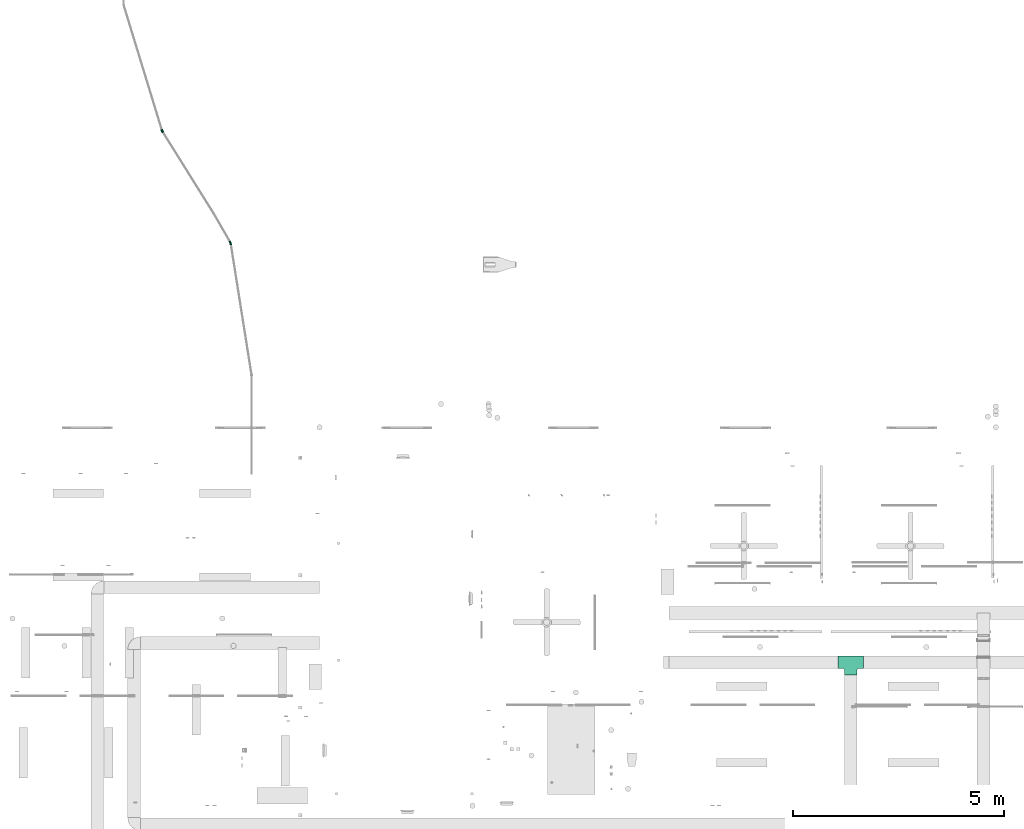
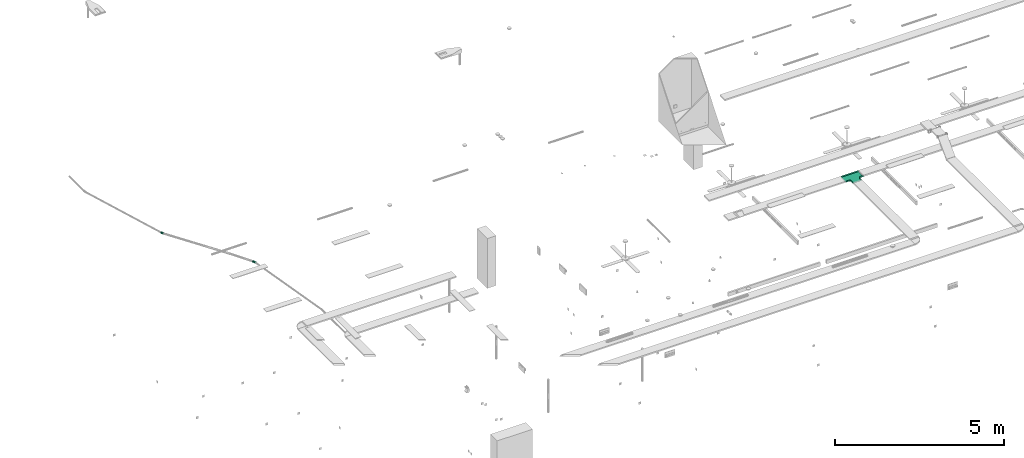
# One storey, part 148 of 153: 3 flow fittings.
"""IFC2X3 building model written with IfcOpenShell, lengths in metres."""

import ifcopenshell
import ifcopenshell.guid

model = None  # the IFC model being written
_history = None  # IfcOwnerHistory: only IFC2X3 demands one
_inside = {}  # id of a spatial element -> (the spatial element, [elements in it])
_under = {}  # id of a project, library or spatial element -> (it, [spatial elements below it])
_declared = {}  # id of a project -> (the project, [libraries it declares])
_typed = {}  # id of a type object -> (the type object, [elements of that type])
_made_of = {}  # id of a material, layer set ... -> (it, [elements and type objects made of it])


def new_model(schema):
    """Start an empty IFC model of exactly this schema.

    Asked for "IFC4X3", IfcOpenShell would pick the latest addendum, in which some entities
    have other attributes; the version numbers below select the first issue.
    IFC2X3 requires an IfcOwnerHistory on every rooted entity: one is made here for all.
    """
    global model, _history
    if schema == "IFC4X3":
        model = ifcopenshell.file(schema_version=(4, 3, 0, 0))
    else:
        model = ifcopenshell.file(schema=schema)
    _inside.clear()
    _under.clear()
    _declared.clear()
    _typed.clear()
    _made_of.clear()
    _history = None
    if model.schema == "IFC2X3":
        org = make("IfcOrganization", Name="unknown")
        user = make(
            "IfcPersonAndOrganization",
            ThePerson=make("IfcPerson", FamilyName="unknown"),
            TheOrganization=org,
        )
        app = make(
            "IfcApplication",
            ApplicationDeveloper=org,
            Version="unknown",
            ApplicationFullName="unknown",
            ApplicationIdentifier="unknown",
        )
        _history = make(
            "IfcOwnerHistory",
            OwningUser=user,
            OwningApplication=app,
            ChangeAction="ADDED",
            CreationDate=0,
        )
    return model


def make(cls, **values):
    """One entity of the class cls with the attributes given. An attribute that is None is left unset."""
    return model.create_entity(
        cls, **{name: value for name, value in values.items() if value is not None}
    )


def entity(cls, *values):
    """Any entity or typed value of the class cls, its attributes in the order of the schema. None: left unset."""
    e = model.create_entity(cls)
    for i, value in enumerate(values):
        if value is not None:
            e[i] = value
    return e


def rooted(cls, **values):
    """An entity with a GlobalId (a new one), such as an element, a storey or a relation."""
    return make(cls, GlobalId=ifcopenshell.guid.new(), OwnerHistory=_history, **values)


def si_unit(unit_type, name, prefix=None):
    """IfcSIUnit, for example si_unit("LENGTHUNIT", "METRE", prefix="MILLI")."""
    return make("IfcSIUnit", UnitType=unit_type, Prefix=prefix, Name=name)


def converted_unit(unit_type, name, factor, base, dimensions=None, offset=None):
    """IfcConversionBasedUnit, such as the inch: factor (a typed value) times the base unit."""
    return make(
        "IfcConversionBasedUnit"
        if offset is None
        else "IfcConversionBasedUnitWithOffset",
        ConversionOffset=offset,
        Dimensions=None
        if dimensions is None
        else entity("IfcDimensionalExponents", *dimensions),
        UnitType=unit_type,
        Name=name,
        ConversionFactor=make(
            "IfcMeasureWithUnit", ValueComponent=factor, UnitComponent=base
        ),
    )


def derived_unit(unit_type, elements):
    """IfcDerivedUnit: a product of units, each with its exponent."""
    return make(
        "IfcDerivedUnit",
        Elements=[
            make("IfcDerivedUnitElement", Unit=unit, Exponent=power)
            for unit, power in elements
        ],
        UnitType=unit_type,
    )


def assignment(units):
    """IfcUnitAssignment: the units of a project."""
    return None if units is None else make("IfcUnitAssignment", Units=units)


def point(xyz):
    """IfcCartesianPoint."""
    return None if xyz is None else make("IfcCartesianPoint", Coordinates=xyz)


def direction(xyz):
    """IfcDirection."""
    return None if xyz is None else make("IfcDirection", DirectionRatios=xyz)


def frame(location, z_axis=None, x_axis=None):
    """IfcAxis2Placement3D, a coordinate frame: its origin and axes. An axis left out is left unset."""
    return make(
        "IfcAxis2Placement3D",
        Location=point(location),
        Axis=direction(z_axis),
        RefDirection=direction(x_axis),
    )


def origin():
    """The frame at (0, 0, 0) with its axes left unset."""
    return frame((0.0, 0.0, 0.0))


def place(relative_to, where):
    """IfcLocalPlacement: puts the frame where relative to a parent placement (None: the world)."""
    return make(
        "IfcLocalPlacement", PlacementRelTo=relative_to, RelativePlacement=where
    )


def context(
    kind, dimensions, precision=None, world=None, true_north=None, identifier=None
):
    """IfcGeometricRepresentationContext, for example the 3D "Model" context."""
    return make(
        "IfcGeometricRepresentationContext",
        ContextIdentifier=identifier,
        ContextType=kind,
        CoordinateSpaceDimension=dimensions,
        Precision=precision,
        WorldCoordinateSystem=world,
        TrueNorth=true_north,
    )


def subcontext(parent, identifier, kind, view, scale=None):
    """IfcGeometricRepresentationSubContext, for example "Body" below "Model"."""
    return make(
        "IfcGeometricRepresentationSubContext",
        ContextIdentifier=identifier,
        ContextType=kind,
        ParentContext=parent,
        TargetScale=scale,
        TargetView=view,
    )


def project(units=None, contexts=None):
    """IfcProject with its units and contexts."""
    return rooted(
        "IfcProject",
        Name="project",
        RepresentationContexts=contexts,
        UnitsInContext=assignment(units),
    )


def spatial(cls, under=None, at=None, **own):
    """A site, building, storey or space (cls), placed at a placement, below another one or the project."""
    s = rooted(cls, ObjectPlacement=at, **own)
    if under is not None:
        _under.setdefault(under.id(), (under, []))[1].append(s)
    return s


def faces_of(points, faces, orient=None, outer=None):
    """IfcFace entities. A face is a list of loops; a loop is a list of indices into points, from 0.

    orient and outer hold one flag for each loop. By default every Orientation is true, the
    first loop of a face is its IfcFaceOuterBound and the others are IfcFaceBound.
    """
    made = []
    for i, loops in enumerate(faces):
        bounds = []
        for j, loop in enumerate(loops):
            is_outer = j == 0 if outer is None else outer[i][j]
            bounds.append(
                make(
                    "IfcFaceOuterBound" if is_outer else "IfcFaceBound",
                    Bound=make("IfcPolyLoop", Polygon=[points[k] for k in loop]),
                    Orientation=True if orient is None else orient[i][j],
                )
            )
        made.append(make("IfcFace", Bounds=bounds))
    return made


def faceted_brep(points, faces, orient=None, outer=None, voids=None):
    """IfcFacetedBrep: a solid bounded by flat faces; with voids (closed shells), ...WithVoids."""
    shared = [point(p) for p in points]
    hull = make("IfcClosedShell", CfsFaces=faces_of(shared, faces, orient, outer))
    if voids is None:
        return make("IfcFacetedBrep", Outer=hull)
    return make(
        "IfcFacetedBrepWithVoids",
        Outer=hull,
        Voids=[
            make(cls, CfsFaces=faces_of(shared, fs, o, b)) for cls, fs, o, b in voids
        ],
    )


def shape(context_of_items, identifier, shape_type, items):
    """IfcShapeRepresentation: the items that make up one representation, for example the "Body"."""
    return make(
        "IfcShapeRepresentation",
        ContextOfItems=context_of_items,
        RepresentationIdentifier=identifier,
        RepresentationType=shape_type,
        Items=items,
    )


def source(mapping_origin, context_of_items, identifier, shape_type, items):
    """IfcRepresentationMap: a shape defined once, which mapped items show again and again."""
    return make(
        "IfcRepresentationMap",
        MappingOrigin=mapping_origin,
        MappedRepresentation=shape(context_of_items, identifier, shape_type, items),
    )


def transform(
    local_origin,
    x_axis=None,
    y_axis=None,
    z_axis=None,
    scale=None,
    scale2=None,
    scale3=None,
    uniform=True,
):
    """IfcCartesianTransformationOperator3D, or its non-uniform kind. x_axis, y_axis, z_axis: its Axis1, 2, 3."""
    if uniform:
        return make(
            "IfcCartesianTransformationOperator3D",
            Axis1=direction(x_axis),
            Axis2=direction(y_axis),
            LocalOrigin=point(local_origin),
            Scale=scale,
            Axis3=direction(z_axis),
        )
    return make(
        "IfcCartesianTransformationOperator3DnonUniform",
        Axis1=direction(x_axis),
        Axis2=direction(y_axis),
        LocalOrigin=point(local_origin),
        Scale=scale,
        Axis3=direction(z_axis),
        Scale2=scale2,
        Scale3=scale3,
    )


def mapped(mapping_source, mapping_target):
    """IfcMappedItem: shows the shape of a source again, moved by a transform."""
    return make(
        "IfcMappedItem", MappingSource=mapping_source, MappingTarget=mapping_target
    )


def made_of(thing, what):
    """Note that an element or type object is made of a material, layer set ...; save() writes the relation."""
    if what is not None:
        _made_of.setdefault(what.id(), (what, []))[1].append(thing)
    return thing


def type_object(cls, material=None, **own):
    """A type object (cls), such as IfcWallType, which elements share."""
    return made_of(rooted(cls, **own), material)


def type_shapes(of_type, sources):
    """Give a type object the sources (RepresentationMaps) that its elements show as mapped items."""
    of_type.RepresentationMaps = sources


def element(
    cls,
    number,
    at=None,
    inside=None,
    cuts=None,
    type_object=None,
    material=None,
    context=None,
    identifier="Body",
    shape_type=None,
    held_by="IfcProductDefinitionShape",
    body=None,
    shapes=None,
    **own,
):
    """One element of the class cls, such as IfcWall. Its Tag is "e" and its number.

    at: its placement. inside: the storey or other place that contains it. cuts: it is an
    opening in that element (IfcRelVoidsElement). A single representation is given by context,
    identifier, shape_type and body (its items); several are given by shapes. held_by: the class
    of the entity that holds the representations. save() writes the other relations.
    """
    e = rooted(cls, Tag="e%d" % number, ObjectPlacement=at, **own)
    if body is not None:
        shapes = [shape(context, identifier, shape_type, body)]
    if shapes is not None:
        e.Representation = make(held_by, Representations=shapes)
    if inside is not None:
        _inside.setdefault(inside.id(), (inside, []))[1].append(e)
    if cuts is not None:
        rooted(
            "IfcRelVoidsElement", RelatingBuildingElement=cuts, RelatedOpeningElement=e
        )
    if type_object is not None:
        _typed.setdefault(type_object.id(), (type_object, []))[1].append(e)
    return made_of(e, material)


def aggregate(whole, parts):
    """IfcRelAggregates: a whole, such as a stair, and the parts it consists of."""
    return rooted("IfcRelAggregates", RelatingObject=whole, RelatedObjects=parts)


def save(model, path):
    """Write the relations noted so far, then the file.

    IfcRelAggregates (storeys below a building ...), IfcRelContainedInSpatialStructure (elements
    in a storey), IfcRelDefinesByType, IfcRelAssociatesMaterial and IfcRelDeclares: one each for
    every whole, place, type object, material and project.
    """
    for whole, parts in _under.values():
        aggregate(whole, parts)
    for where, things in _inside.values():
        rooted(
            "IfcRelContainedInSpatialStructure",
            RelatedElements=things,
            RelatingStructure=where,
        )
    for kind, things in _typed.values():
        rooted("IfcRelDefinesByType", RelatedObjects=things, RelatingType=kind)
    for what, things in _made_of.values():
        rooted("IfcRelAssociatesMaterial", RelatedObjects=things, RelatingMaterial=what)
    for by, libraries in _declared.values():
        rooted("IfcRelDeclares", RelatingContext=by, RelatedDefinitions=libraries)
    model.write(path)


model = new_model("IFC2X3")

# Units and contexts
model_context = context("Model", 3, precision=1e-05, world=origin(), true_north=direction((6.12303176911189e-17, 1.0)))
body_context = subcontext(model_context, "Body", "Model", "MODEL_VIEW")
ifc_project = project(units=[si_unit("LENGTHUNIT", "METRE"), si_unit("AREAUNIT", "SQUARE_METRE"), si_unit("VOLUMEUNIT", "CUBIC_METRE"), converted_unit("PLANEANGLEUNIT", "DEGREE", entity("IfcRatioMeasure", 0.0174532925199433), si_unit("PLANEANGLEUNIT", "RADIAN"), dimensions=[0, 0, 0, 0, 0, 0, 0]), si_unit("MASSUNIT", "GRAM", prefix="KILO"), derived_unit("MASSDENSITYUNIT", [(si_unit("MASSUNIT", "GRAM", prefix="KILO"), 1), (si_unit("LENGTHUNIT", "METRE"), -3)]), si_unit("TIMEUNIT", "SECOND"), si_unit("FREQUENCYUNIT", "HERTZ"), si_unit("THERMODYNAMICTEMPERATUREUNIT", "DEGREE_CELSIUS"), derived_unit("THERMALTRANSMITTANCEUNIT", [(si_unit("MASSUNIT", "GRAM", prefix="KILO"), 1), (si_unit("THERMODYNAMICTEMPERATUREUNIT", "KELVIN"), -1), (si_unit("TIMEUNIT", "SECOND"), -3)]), derived_unit("VOLUMETRICFLOWRATEUNIT", [(si_unit("LENGTHUNIT", "METRE"), 3), (si_unit("TIMEUNIT", "SECOND"), -1)]), si_unit("ELECTRICCURRENTUNIT", "AMPERE"), si_unit("ELECTRICVOLTAGEUNIT", "VOLT"), si_unit("POWERUNIT", "WATT"), si_unit("FORCEUNIT", "NEWTON"), si_unit("ILLUMINANCEUNIT", "LUX"), si_unit("LUMINOUSFLUXUNIT", "LUMEN"), si_unit("LUMINOUSINTENSITYUNIT", "CANDELA"), derived_unit("USERDEFINED", [(si_unit("MASSUNIT", "GRAM", prefix="KILO"), -1), (si_unit("LENGTHUNIT", "METRE"), -2), (si_unit("TIMEUNIT", "SECOND"), 3), (si_unit("LUMINOUSFLUXUNIT", "LUMEN"), 1)]), derived_unit("LINEARVELOCITYUNIT", [(si_unit("LENGTHUNIT", "METRE"), 1), (si_unit("TIMEUNIT", "SECOND"), -1)]), si_unit("PRESSUREUNIT", "PASCAL"), derived_unit("USERDEFINED", [(si_unit("LENGTHUNIT", "METRE"), -2), (si_unit("MASSUNIT", "GRAM", prefix="KILO"), 1), (si_unit("TIMEUNIT", "SECOND"), -2)])], contexts=[model_context])

# Site, building, storey
site_placement = place(None, origin())
site = spatial("IfcSite", under=ifc_project, at=site_placement, Name="Default", CompositionType="ELEMENT")
building_placement = place(site_placement, origin())
building = spatial("IfcBuilding", under=site, at=building_placement, CompositionType="ELEMENT")
storey_placement = place(building_placement, frame((0.0, 0.0, -4.62)))
storey = spatial("IfcBuildingStorey", under=building, at=storey_placement, Name="S02", CompositionType="ELEMENT", Elevation=-4.62)

# Flow fittings
cable_carrier_fitting_type_1 = type_object("IfcCableCarrierFittingType", Name="E_Tee_Horizontal_CA_Generic_MEPcontent", PredefinedType="NOTDEFINED")
shared_shape_1 = source(origin(), body_context, "Body", "Brep", [
    faceted_brep([(-0.299999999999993, 0.149999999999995, 0.0249999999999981), (-0.299999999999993, 0.147460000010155, 0.0249999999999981), (-0.187499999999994, 0.147460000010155, 0.0249999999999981), (-0.177136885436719, 0.148824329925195, 0.0249999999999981), (-0.167480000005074, 0.152824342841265, 0.0249999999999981), (-0.159187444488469, 0.15918744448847, 0.0249999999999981), (-0.152824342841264, 0.167480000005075, 0.0249999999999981), (-0.148824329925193, 0.177136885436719, 0.0249999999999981), (-0.147460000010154, 0.187499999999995, 0.0249999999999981), (-0.147460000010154, 0.299999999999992, 0.0249999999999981), (-0.149999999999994, 0.299999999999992, 0.0249999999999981), (-0.149999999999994, 0.187499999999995, 0.0249999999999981), (-0.151277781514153, 0.177794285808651, 0.0249999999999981), (-0.155024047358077, 0.168749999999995, 0.0249999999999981), (-0.160983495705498, 0.1609834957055, 0.0249999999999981), (-0.168749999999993, 0.155024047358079, 0.0249999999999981), (-0.177794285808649, 0.151277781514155, 0.0249999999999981), (-0.187499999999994, 0.149999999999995, 0.0249999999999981), (0.148824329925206, 0.177136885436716, 0.0249999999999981), (0.152824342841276, 0.167480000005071, 0.0249999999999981), (0.159187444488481, 0.159187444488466, 0.0249999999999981), (0.167480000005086, 0.152824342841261, 0.0249999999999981), (0.177136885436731, 0.148824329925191, 0.0249999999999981), (0.187500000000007, 0.147460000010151, 0.0249999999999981), (0.300000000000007, 0.147460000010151, 0.0249999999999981), (0.300000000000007, 0.149999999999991, 0.0249999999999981), (0.187500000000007, 0.149999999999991, 0.0249999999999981), (0.177794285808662, 0.151277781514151, 0.0249999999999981), (0.168750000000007, 0.155024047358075, 0.0249999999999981), (0.160983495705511, 0.160983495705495, 0.0249999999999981), (0.15502404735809, 0.168749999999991, 0.0249999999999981), (0.151277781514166, 0.177794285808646, 0.0249999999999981), (0.150000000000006, 0.187499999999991, 0.0249999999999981), (0.150000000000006, 0.299999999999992, 0.0249999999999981), (0.147460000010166, 0.299999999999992, 0.0249999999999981), (0.147460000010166, 0.187499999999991, 0.0249999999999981), (-0.299999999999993, -0.147460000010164, 0.0249999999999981), (-0.299999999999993, -0.150000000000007, 0.0249999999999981), (0.300000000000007, -0.150000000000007, 0.0249999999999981), (0.300000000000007, -0.147460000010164, 0.0249999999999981), (0.300000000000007, 0.149999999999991, -0.0250000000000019), (0.300000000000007, -0.150000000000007, -0.0250000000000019), (-0.299999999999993, -0.150000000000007, -0.0250000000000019), (-0.299999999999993, 0.149999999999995, -0.0250000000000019), (-0.187499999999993, 0.149999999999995, -0.0250000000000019), (-0.177794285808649, 0.151277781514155, -0.0250000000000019), (-0.168749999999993, 0.155024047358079, -0.0250000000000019), (-0.160983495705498, 0.1609834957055, -0.0250000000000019), (-0.155024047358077, 0.168749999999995, -0.0250000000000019), (-0.151277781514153, 0.177794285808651, -0.0250000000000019), (-0.149999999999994, 0.187499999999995, -0.0250000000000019), (-0.149999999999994, 0.299999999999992, -0.0250000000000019), (0.150000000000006, 0.299999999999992, -0.0250000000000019), (0.150000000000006, 0.187499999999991, -0.0250000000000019), (0.151277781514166, 0.177794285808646, -0.0250000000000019), (0.15502404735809, 0.168749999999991, -0.0250000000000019), (0.160983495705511, 0.160983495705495, -0.0250000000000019), (0.168750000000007, 0.155024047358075, -0.0250000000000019), (0.177794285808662, 0.151277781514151, -0.0250000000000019), (0.187500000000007, 0.149999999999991, -0.0250000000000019), (-0.299999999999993, -0.147460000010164, -0.0224600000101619), (-0.299999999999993, 0.147460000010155, -0.0224600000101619), (0.300000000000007, 0.147460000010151, -0.0224600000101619), (0.300000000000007, -0.147460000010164, -0.0224600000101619), (0.187500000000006, 0.147460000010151, -0.0224600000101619), (0.177136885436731, 0.148824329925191, -0.0224600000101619), (0.167480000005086, 0.152824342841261, -0.0224600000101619), (0.159187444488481, 0.159187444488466, -0.0224600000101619), (0.152824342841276, 0.167480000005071, -0.0224600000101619), (0.148824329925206, 0.177136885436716, -0.0224600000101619), (0.147460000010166, 0.187499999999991, -0.0224600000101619), (0.147460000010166, 0.299999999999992, -0.0224600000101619), (-0.147460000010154, 0.299999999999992, -0.0224600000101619), (-0.147460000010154, 0.187499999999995, -0.0224600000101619), (-0.148824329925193, 0.177136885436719, -0.0224600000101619), (-0.152824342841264, 0.167480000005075, -0.0224600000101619), (-0.159187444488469, 0.159187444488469, -0.0224600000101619), (-0.167480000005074, 0.152824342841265, -0.0224600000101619), (-0.177136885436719, 0.148824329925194, -0.0224600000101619), (-0.187499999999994, 0.147460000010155, -0.0224600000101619), (-0.149999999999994, 0.187499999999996, -0.0224600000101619), (-0.187499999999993, 0.149999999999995, -0.0224600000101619), (0.187500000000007, 0.149999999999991, -0.0224600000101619), (0.150000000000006, 0.187499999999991, -0.0224600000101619)], [[[0, 1, 2, 3, 4, 5, 6, 7, 8, 9, 10, 11, 12, 13, 14, 15, 16, 17]], [[18, 19, 20, 21, 22, 23, 24, 25, 26, 27, 28, 29, 30, 31, 32, 33, 34, 35]], [[36, 37, 38, 39]], [[40, 41, 42, 43, 44, 45, 46, 47, 48, 49, 50, 51, 52, 53, 54, 55, 56, 57, 58, 59]], [[1, 0, 43, 42, 37, 36, 60, 61]], [[39, 38, 41, 40, 25, 24, 62, 63]], [[61, 60, 63, 62, 64, 65, 66, 67, 68, 69, 70, 71, 72, 73, 74, 75, 76, 77, 78, 79]], [[38, 37, 42, 41]], [[36, 39, 63, 60]], [[2, 1, 61, 79]], [[24, 23, 64, 62]], [[3, 78, 77, 4]], [[4, 77, 76, 5]], [[79, 78, 3, 2]], [[6, 75, 74, 7]], [[7, 74, 73, 8]], [[5, 76, 75, 6]], [[9, 8, 73, 72]], [[34, 33, 52, 51, 10, 9, 72, 71]], [[11, 10, 51, 50, 80]], [[12, 11, 80, 50, 49]], [[13, 12, 49, 48]], [[14, 13, 48, 47]], [[16, 15, 46, 45]], [[16, 45, 44, 81, 17]], [[46, 15, 14, 47]], [[0, 17, 81, 44, 43]], [[26, 25, 40, 59, 82]], [[82, 59, 58, 27, 26]], [[58, 57, 28, 27]], [[29, 28, 57, 56]], [[31, 30, 55, 54]], [[31, 54, 53, 83, 32]], [[55, 30, 29, 56]], [[33, 32, 83, 53, 52]], [[35, 34, 71, 70]], [[18, 69, 68, 19]], [[19, 68, 67, 20]], [[35, 70, 69, 18]], [[21, 66, 65, 22]], [[22, 65, 64, 23]], [[20, 67, 66, 21]]]),
])
type_shapes(cable_carrier_fitting_type_1, [shared_shape_1])
flow_fitting_1_placement = place(building_placement, frame((54.0583394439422, -189.865826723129, -0.830999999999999), z_axis=(0.0, 0.0, 1.0), x_axis=(-1.0, 0.0, 0.0)))
element("IfcFlowFitting", 1, at=flow_fitting_1_placement, inside=storey, type_object=cable_carrier_fitting_type_1, Name="E_Tee_Horizontal_CA_Generic_MEPcontent:E_Tee_Horizontal_CA_Generic_MEPcontent", ObjectType="E_Tee_Horizontal_CA_Generic_MEPcontent:E_Tee_Horizontal_CA_Generic_MEPcontent", context=body_context, shape_type="MappedRepresentation", body=[
    mapped(shared_shape_1, transform((0.0, 0.0, 0.0), scale=1.0)),
])
cable_carrier_fitting_type_2 = type_object("IfcCableCarrierFittingType", Name="E_E6120_Lightning Conductor_Bend_MEPcontent", PredefinedType="NOTDEFINED")
shared_shape_2 = source(origin(), body_context, "Body", "Brep", [
    faceted_brep([(-0.036440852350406, -0.0229496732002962, 0.0132499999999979), (-0.0364408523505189, -0.0189269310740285, 0.016336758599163), (-0.0364408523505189, -0.0149041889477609, 0.0194235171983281), (-0.0364408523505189, -0.0108814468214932, 0.0225102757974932), (-0.0364408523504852, -0.0068587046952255, 0.0255970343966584), (-0.0364408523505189, 0.0, 0.0255970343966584), (-0.0364408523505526, 0.00685870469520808, 0.0255970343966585), (-0.0364408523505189, 0.0108814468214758, 0.0225102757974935), (-0.0364408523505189, 0.0149041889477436, 0.0194235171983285), (-0.0364408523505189, 0.0189269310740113, 0.0163367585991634), (-0.0364408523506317, 0.022949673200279, 0.0132499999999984), (-0.0364408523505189, 0.0240062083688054, 0.00930695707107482), (-0.0364408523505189, 0.0250627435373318, 0.00536391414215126), (-0.0364408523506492, 0.0264999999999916, 0.0), (-0.0364408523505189, 0.0247248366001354, -0.00662500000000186), (-0.0364408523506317, 0.0229496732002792, -0.0132500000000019), (-0.0364408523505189, 0.0189269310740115, -0.0163367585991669), (-0.0364408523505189, 0.0149041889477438, -0.019423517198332), (-0.0364408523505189, 0.0108814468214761, -0.0225102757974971), (-0.0364408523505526, 0.0068587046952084, -0.0255970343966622), (-0.0364408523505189, 0.0, -0.0255970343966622), (-0.0364408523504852, -0.00685870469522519, -0.0255970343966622), (-0.0364408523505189, -0.0108814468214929, -0.0225102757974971), (-0.0364408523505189, -0.0149041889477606, -0.0194235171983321), (-0.0364408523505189, -0.0189269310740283, -0.016336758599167), (-0.036440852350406, -0.022949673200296, -0.0132500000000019), (-0.0364408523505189, -0.0240062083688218, -0.00930695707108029), (-0.0364408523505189, -0.0250627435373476, -0.00536391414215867), (-0.0364408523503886, -0.0265000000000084, 0.0), (-0.0364408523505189, -0.0247248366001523, 0.00662499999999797), (-0.0354408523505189, -0.0240062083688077, 0.00930695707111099), (-0.0354408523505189, -0.0229496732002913, 0.0132499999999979), (-0.0354408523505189, -0.0265000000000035, 0.0), (-0.0354408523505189, -0.0250627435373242, 0.00536391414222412), (-0.0354408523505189, 0.0229496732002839, 0.0132499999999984), (-0.035440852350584, 0.0247248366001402, 0.00662499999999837), (-0.0354408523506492, 0.0264999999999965, 0.0), (-0.0354408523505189, -0.0108814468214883, 0.0225102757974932), (-0.0354408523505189, -0.00685870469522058, 0.0255970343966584), (-0.0354408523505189, -0.0189269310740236, 0.016336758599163), (-0.0354408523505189, -0.0149041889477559, 0.0194235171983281), (-0.0354408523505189, 0.00685870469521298, 0.0255970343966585), (-0.0354408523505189, 0.0108814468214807, 0.0225102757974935), (-0.0354408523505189, 0.0149041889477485, 0.0194235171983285), (-0.0354408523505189, 0.0189269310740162, 0.0163367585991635), (-0.0354408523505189, 0.0, 0.0255970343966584), (0.034233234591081, 0.00917276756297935, 0.0255970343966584), (0.0360083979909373, 0.00254776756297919, 0.0255970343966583), (0.0369743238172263, 0.00280658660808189, 0.0255970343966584), (0.0351991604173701, 0.00943158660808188, 0.0255970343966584), (0.0334239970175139, 0.0160565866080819, 0.0255970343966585), (0.0324580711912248, 0.0157977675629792, 0.0255970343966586), (-0.0354408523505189, 0.0240062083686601, -0.00930695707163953), (-0.0354408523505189, 0.0229496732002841, -0.0132500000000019), (-0.0354408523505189, 0.025062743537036, -0.00536391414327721), (-0.0354408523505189, -0.0229496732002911, -0.0132500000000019), (-0.0354408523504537, -0.0247248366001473, -0.00662500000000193), (-0.0354408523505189, 0.010881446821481, -0.0225102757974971), (-0.0354408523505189, 0.00685870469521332, -0.0255970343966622), (-0.0354408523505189, 0.0189269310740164, -0.0163367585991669), (-0.0354408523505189, 0.0149041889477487, -0.019423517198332), (-0.0354408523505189, -0.00685870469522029, -0.0255970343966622), (-0.0354408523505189, -0.010881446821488, -0.0225102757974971), (-0.0354408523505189, -0.0149041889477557, -0.0194235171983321), (-0.0354408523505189, -0.0189269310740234, -0.016336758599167), (-0.0354408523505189, 0.0, -0.0255970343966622), (0.0342332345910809, 0.00917276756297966, -0.0255970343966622), (0.0324580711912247, 0.0157977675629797, -0.0255970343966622), (0.0334239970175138, 0.0160565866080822, -0.0255970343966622), (0.03519916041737, 0.00943158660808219, -0.0255970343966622), (0.0369743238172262, 0.00280658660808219, -0.0255970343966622), (0.0360083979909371, 0.00254776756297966, -0.0255970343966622), (-0.000198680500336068, 0.00150912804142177, 0.0264878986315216), (0.00315574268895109, -0.0239702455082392, 0.0), (0.00165457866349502, -0.0166221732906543, 0.0184530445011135), (0.0401730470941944, -0.0129949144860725, 0.0132499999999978), (-0.00302754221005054, 0.0229964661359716, 0.0163282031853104), (-0.00376214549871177, 0.0285763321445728, 0.0), (0.0410919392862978, -0.0164242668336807, 0.0), (0.0406324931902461, -0.0147095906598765, 0.00662499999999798), (0.0282934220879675, 0.0313404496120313, 0.0132499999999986), (0.0280199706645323, 0.0323609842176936, 0.00930695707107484), (0.027746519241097, 0.0333815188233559, 0.00536391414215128), (0.027374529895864, 0.0347698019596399, 0.0), (0.0314169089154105, 0.0196834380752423, 0.0225102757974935), (0.0303757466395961, 0.0235691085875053, 0.0194235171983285), (0.0293345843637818, 0.0274547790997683, 0.0163367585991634), (0.0391318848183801, -0.00910924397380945, 0.016336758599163), (0.0380907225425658, -0.00522357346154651, 0.0194235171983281), (0.0370495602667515, -0.00133790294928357, 0.0225102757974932), (0.00270393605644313, -0.0164840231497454, -0.0184530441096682), (0.0370495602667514, -0.0013379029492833, -0.0225102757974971), (0.0380907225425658, -0.00522357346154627, -0.0194235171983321), (0.0391318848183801, -0.00910924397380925, -0.016336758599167), (0.0401730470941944, -0.0129949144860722, -0.0132500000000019), (-0.000198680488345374, 0.00150912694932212, -0.0264878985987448), (-0.00302754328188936, 0.0229964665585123, -0.0163282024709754), (0.0278339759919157, 0.0330551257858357, -0.00662500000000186), (0.0282934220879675, 0.0313404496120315, -0.0132500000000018), (0.0404464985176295, -0.014015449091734, -0.0093069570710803), (0.0407199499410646, -0.0150359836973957, -0.00536391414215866), (0.0293345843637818, 0.0274547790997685, -0.0163367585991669), (0.0303757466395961, 0.0235691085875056, -0.019423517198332), (0.0314169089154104, 0.0196834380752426, -0.0225102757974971), (0.0323828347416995, 0.0199422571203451, -0.0225102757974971), (0.0313416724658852, 0.0238279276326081, -0.019423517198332), (0.0303005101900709, 0.0277135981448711, -0.0163367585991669), (0.0292593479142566, 0.031599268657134, -0.0132500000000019), (0.0289858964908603, 0.032619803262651, -0.00930695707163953), (0.028712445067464, 0.033640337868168, -0.00536391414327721), (0.0283404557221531, 0.0350286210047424, 0.0), (0.0287999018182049, 0.0333139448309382, 0.00662499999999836), (0.0292593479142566, 0.0315992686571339, 0.0132499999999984), (0.0303005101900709, 0.0277135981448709, 0.0163367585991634), (0.0313416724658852, 0.0238279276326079, 0.0194235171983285), (0.0323828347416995, 0.0199422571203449, 0.0225102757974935), (0.0380154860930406, -0.00107908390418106, 0.0225102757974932), (0.0390566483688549, -0.00496475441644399, 0.0194235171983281), (0.0400978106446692, -0.00885042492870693, 0.016336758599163), (0.0411389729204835, -0.0127360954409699, 0.0132499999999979), (0.0414124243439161, -0.0137566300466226, 0.00930695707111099), (0.0416858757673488, -0.0147771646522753, 0.00536391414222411), (0.0420578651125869, -0.0161654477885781, 0.0), (0.0415984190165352, -0.0144507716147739, -0.00662500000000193), (0.0411389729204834, -0.0127360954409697, -0.0132500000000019), (0.0400978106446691, -0.00885042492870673, -0.016336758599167), (0.0390566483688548, -0.00496475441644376, -0.0194235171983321), (0.0380154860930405, -0.00107908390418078, -0.0225102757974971)], [[[0, 1, 2, 3, 4, 5, 6, 7, 8, 9, 10, 11, 12, 13, 14, 15, 16, 17, 18, 19, 20, 21, 22, 23, 24, 25, 26, 27, 28, 29]], [[30, 31, 0, 29, 28, 32, 33]], [[11, 10, 34, 35, 36, 13, 12]], [[37, 38, 4, 3, 2, 1, 0, 31, 39, 40]], [[9, 8, 7, 6, 41, 42, 43, 44, 34, 10]], [[5, 4, 38, 45, 41, 6]], [[46, 47, 48, 49, 50, 51]], [[52, 53, 15, 14, 13, 36, 54]], [[26, 25, 55, 56, 32, 28, 27]], [[57, 58, 19, 18, 17, 16, 15, 53, 59, 60]], [[24, 23, 22, 21, 61, 62, 63, 64, 55, 25]], [[20, 19, 58, 65, 61, 21]], [[66, 67, 68, 69, 70, 71]], [[72, 41, 45, 38]], [[31, 73, 74]], [[75, 74, 73]], [[72, 47, 46, 51]], [[76, 34, 44, 43, 42, 41]], [[34, 76, 77]], [[74, 38, 37, 40, 39, 31]], [[77, 36, 35, 34]], [[41, 72, 76]], [[51, 76, 72]], [[73, 31, 30, 33, 32]], [[38, 74, 72]], [[73, 78, 79, 75]], [[72, 74, 47]], [[77, 80, 81, 82, 83]], [[80, 77, 76]], [[76, 51, 84, 85, 86, 80]], [[74, 75, 87, 88, 89, 47]], [[90, 71, 91, 92, 93, 94]], [[71, 90, 95]], [[53, 77, 96]], [[95, 61, 65, 58]], [[73, 32, 56, 55]], [[90, 55, 64, 63, 62, 61]], [[90, 61, 95]], [[58, 96, 95]], [[77, 53, 52, 54, 36]], [[77, 83, 97, 98]], [[96, 58, 57, 60, 59, 53]], [[95, 96, 67]], [[94, 73, 90]], [[55, 90, 73]], [[73, 94, 99, 100, 78]], [[96, 98, 101, 102, 103, 67]], [[95, 67, 66, 71]], [[96, 77, 98]], [[104, 105, 106, 107, 108, 109, 110, 111, 112, 113, 114, 115, 50, 49, 48, 116, 117, 118, 119, 120, 121, 122, 123, 124, 125, 126, 127, 70, 69, 68]], [[120, 119, 75, 79, 78, 122, 121]], [[81, 80, 112, 111, 110, 83, 82]], [[116, 48, 47, 89, 88, 87, 75, 119, 118, 117]], [[86, 85, 84, 51, 50, 115, 114, 113, 112, 80]], [[108, 107, 98, 97, 83, 110, 109]], [[99, 94, 124, 123, 122, 78, 100]], [[104, 68, 67, 103, 102, 101, 98, 107, 106, 105]], [[93, 92, 91, 71, 70, 127, 126, 125, 124, 94]]]),
])
type_shapes(cable_carrier_fitting_type_2, [shared_shape_2])
flow_fitting_2_placement = place(building_placement, frame((37.7642052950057, -177.293845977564, -4.7921), z_axis=(0.0, 0.0, 1.0), x_axis=(0.292371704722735, -0.956304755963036, 0.0)))
element("IfcFlowFitting", 2, at=flow_fitting_2_placement, inside=storey, type_object=cable_carrier_fitting_type_2, Name="E_Lightning Conductor_Bend_MEPcontent:E_E6120_Lightning Conductor_Bend_MEPcontent", ObjectType="E_Lightning Conductor_Bend_MEPcontent:E_E6120_Lightning Conductor_Bend_MEPcontent", context=body_context, shape_type="MappedRepresentation", body=[
    mapped(shared_shape_2, transform((0.0, 0.0, 0.0), scale=1.0)),
])
cable_carrier_fitting_type_3 = type_object("IfcCableCarrierFittingType", Name="E_E6120_Lightning Conductor_Bend_MEPcontent", PredefinedType="NOTDEFINED")
shared_shape_3 = source(origin(), body_context, "Body", "Brep", [
    faceted_brep([(-0.0508932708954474, -0.0229496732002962, 0.0132499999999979), (-0.0508932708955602, -0.0189269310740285, 0.016336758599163), (-0.0508932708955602, -0.0149041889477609, 0.0194235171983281), (-0.0508932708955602, -0.0108814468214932, 0.0225102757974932), (-0.0508932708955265, -0.0068587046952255, 0.0255970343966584), (-0.0508932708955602, 0.0, 0.0255970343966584), (-0.050893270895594, 0.00685870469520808, 0.0255970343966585), (-0.0508932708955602, 0.0108814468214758, 0.0225102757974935), (-0.0508932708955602, 0.0149041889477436, 0.0194235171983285), (-0.0508932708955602, 0.0189269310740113, 0.0163367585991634), (-0.0508932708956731, 0.022949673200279, 0.0132499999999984), (-0.0508932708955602, 0.0240062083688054, 0.00930695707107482), (-0.0508932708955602, 0.0250627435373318, 0.00536391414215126), (-0.0508932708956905, 0.0264999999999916, 0.0), (-0.0508932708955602, 0.0247248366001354, -0.00662500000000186), (-0.0508932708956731, 0.0229496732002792, -0.0132500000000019), (-0.0508932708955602, 0.0189269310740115, -0.0163367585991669), (-0.0508932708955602, 0.0149041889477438, -0.019423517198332), (-0.0508932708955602, 0.0108814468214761, -0.0225102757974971), (-0.050893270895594, 0.0068587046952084, -0.0255970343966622), (-0.0508932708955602, 0.0, -0.0255970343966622), (-0.0508932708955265, -0.00685870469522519, -0.0255970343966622), (-0.0508932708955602, -0.0108814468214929, -0.0225102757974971), (-0.0508932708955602, -0.0149041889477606, -0.0194235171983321), (-0.0508932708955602, -0.0189269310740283, -0.016336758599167), (-0.0508932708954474, -0.022949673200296, -0.0132500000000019), (-0.0508932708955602, -0.0240062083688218, -0.00930695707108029), (-0.0508932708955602, -0.0250627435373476, -0.00536391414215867), (-0.0508932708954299, -0.0265000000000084, 0.0), (-0.0508932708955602, -0.0247248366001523, 0.00662499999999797), (-0.0498932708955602, -0.0240062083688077, 0.00930695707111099), (-0.0498932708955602, -0.0229496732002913, 0.0132499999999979), (-0.0498932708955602, -0.0265000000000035, 0.0), (-0.0498932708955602, -0.0250627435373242, 0.00536391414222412), (-0.0498932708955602, 0.0229496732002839, 0.0132499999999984), (-0.0498932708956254, 0.0247248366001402, 0.00662499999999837), (-0.0498932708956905, 0.0264999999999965, 0.0), (-0.0498932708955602, -0.0108814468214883, 0.0225102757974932), (-0.0498932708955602, -0.00685870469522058, 0.0255970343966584), (-0.0498932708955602, -0.0189269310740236, 0.016336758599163), (-0.0498932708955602, -0.0149041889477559, 0.0194235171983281), (-0.0498932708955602, 0.00685870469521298, 0.0255970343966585), (-0.0498932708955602, 0.0108814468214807, 0.0225102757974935), (-0.0498932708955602, 0.0149041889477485, 0.0194235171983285), (-0.0498932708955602, 0.0189269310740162, 0.0163367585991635), (-0.0498932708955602, 0.0, 0.0255970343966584), (0.0465793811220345, 0.0178801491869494, 0.0255970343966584), (0.0490373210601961, 0.0114769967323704, 0.0255970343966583), (0.0499709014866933, 0.0118353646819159, 0.0255970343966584), (0.0475129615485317, 0.0182385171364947, 0.0255970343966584), (0.0450550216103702, 0.0246416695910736, 0.0255970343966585), (0.044121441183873, 0.0242833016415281, 0.0255970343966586), (-0.0498932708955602, 0.0240062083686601, -0.00930695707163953), (-0.0498932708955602, 0.0229496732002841, -0.0132500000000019), (-0.0498932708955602, 0.025062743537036, -0.00536391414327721), (-0.0498932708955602, -0.0229496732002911, -0.0132500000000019), (-0.0498932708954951, -0.0247248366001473, -0.00662500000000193), (-0.0498932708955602, 0.010881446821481, -0.0225102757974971), (-0.0498932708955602, 0.00685870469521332, -0.0255970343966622), (-0.0498932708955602, 0.0189269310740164, -0.0163367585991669), (-0.0498932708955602, 0.0149041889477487, -0.019423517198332), (-0.0498932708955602, -0.00685870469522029, -0.0255970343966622), (-0.0498932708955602, -0.010881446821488, -0.0225102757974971), (-0.0498932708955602, -0.0149041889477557, -0.0194235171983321), (-0.0498932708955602, -0.0189269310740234, -0.016336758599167), (-0.0498932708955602, 0.0, -0.0255970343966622), (0.0465793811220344, 0.0178801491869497, -0.0255970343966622), (0.0441214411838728, 0.0242833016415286, -0.0255970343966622), (0.04505502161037, 0.0246416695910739, -0.0255970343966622), (0.0475129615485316, 0.018238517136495, -0.0255970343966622), (0.0499709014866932, 0.0118353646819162, -0.0255970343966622), (0.049037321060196, 0.0114769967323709, -0.0255970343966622), (-0.000689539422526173, 0.00372042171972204, 0.0264878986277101), (0.00399377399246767, -0.0215484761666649, 0.0), (0.00190187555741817, -0.0143271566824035, 0.0184530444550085), (0.0548038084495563, -0.00354521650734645, 0.0132499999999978), (-0.00463908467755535, 0.0250302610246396, 0.0163282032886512), (-0.00566470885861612, 0.0305640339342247, 0.0), (0.0560761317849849, -0.00685973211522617, 0.0), (0.0554399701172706, -0.00520247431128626, 0.00662499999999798), (0.0383549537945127, 0.0393055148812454, 0.0132499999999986), (0.0379763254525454, 0.0402918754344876, 0.00930695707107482), (0.0375976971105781, 0.0412782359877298, 0.00536391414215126), (0.037082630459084, 0.0426200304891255, 0.0), (0.0426798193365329, 0.0280388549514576, 0.0225102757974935), (0.0412381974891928, 0.0317944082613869, 0.0194235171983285), (0.0397965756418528, 0.0355499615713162, 0.0163367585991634), (0.0533621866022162, 0.000210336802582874, 0.016336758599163), (0.0519205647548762, 0.00396589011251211, 0.0194235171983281), (0.0504789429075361, 0.00772144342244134, 0.0225102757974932), (0.00335884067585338, -0.0140571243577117, -0.0184530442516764), (0.050478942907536, 0.00772144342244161, -0.0225102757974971), (0.0519205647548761, 0.00396589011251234, -0.0194235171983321), (0.0533621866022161, 0.000210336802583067, -0.016336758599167), (0.0548038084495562, -0.00354521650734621, -0.0132500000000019), (-0.000689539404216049, 0.00372042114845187, -0.0264878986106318), (-0.00463908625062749, 0.0250302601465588, -0.0163282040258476), (0.0383549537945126, 0.0393055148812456, -0.0132500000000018), (0.0397965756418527, 0.0355499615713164, -0.0163367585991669), (0.0412381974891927, 0.0317944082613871, -0.019423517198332), (0.0426798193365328, 0.0280388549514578, -0.0225102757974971), (0.0377187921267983, 0.0409627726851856, -0.00662500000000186), (0.0551824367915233, -0.00453157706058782, -0.00930695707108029), (0.0555610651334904, -0.00551793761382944, -0.00536391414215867), (0.0557373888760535, -0.00318684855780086, -0.0132500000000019), (0.0542957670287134, 0.000568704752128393, -0.016336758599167), (0.0528541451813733, 0.00432425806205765, -0.0194235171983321), (0.0514125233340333, 0.00807981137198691, -0.0225102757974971), (0.0436133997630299, 0.0283972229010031, -0.0225102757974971), (0.0421717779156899, 0.0321527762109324, -0.019423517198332), (0.0407301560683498, 0.0359083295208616, -0.0163367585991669), (0.0392885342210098, 0.0396638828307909, -0.0132500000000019), (0.0389099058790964, 0.0406502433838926, -0.00930695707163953), (0.038531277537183, 0.0416366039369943, -0.00536391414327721), (0.0380162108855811, 0.0429783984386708, 0.0), (0.0386523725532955, 0.0413211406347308, 0.00662499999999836), (0.0392885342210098, 0.0396638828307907, 0.0132499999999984), (0.0407301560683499, 0.0359083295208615, 0.0163367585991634), (0.04217177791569, 0.0321527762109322, 0.0194235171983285), (0.0436133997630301, 0.0283972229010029, 0.0225102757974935), (0.0514125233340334, 0.00807981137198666, 0.0225102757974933), (0.0528541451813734, 0.00432425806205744, 0.0194235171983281), (0.0542957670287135, 0.000568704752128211, 0.016336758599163), (0.0557373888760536, -0.00318684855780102, 0.0132499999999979), (0.0561160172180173, -0.00417320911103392, 0.00930695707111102), (0.056494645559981, -0.00515956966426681, 0.00536391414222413), (0.0570097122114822, -0.00650136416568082, 0.0), (0.0563735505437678, -0.00484410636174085, -0.00662500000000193)], [[[0, 1, 2, 3, 4, 5, 6, 7, 8, 9, 10, 11, 12, 13, 14, 15, 16, 17, 18, 19, 20, 21, 22, 23, 24, 25, 26, 27, 28, 29]], [[30, 31, 0, 29, 28, 32, 33]], [[11, 10, 34, 35, 36, 13, 12]], [[37, 38, 4, 3, 2, 1, 0, 31, 39, 40]], [[9, 8, 7, 6, 41, 42, 43, 44, 34, 10]], [[5, 4, 38, 45, 41, 6]], [[46, 47, 48, 49, 50, 51]], [[52, 53, 15, 14, 13, 36, 54]], [[26, 25, 55, 56, 32, 28, 27]], [[57, 58, 19, 18, 17, 16, 15, 53, 59, 60]], [[24, 23, 22, 21, 61, 62, 63, 64, 55, 25]], [[20, 19, 58, 65, 61, 21]], [[66, 67, 68, 69, 70, 71]], [[72, 41, 45, 38]], [[31, 73, 74]], [[75, 74, 73]], [[72, 47, 46, 51]], [[76, 34, 44, 43, 42, 41]], [[34, 76, 77]], [[74, 38, 37, 40, 39, 31]], [[77, 36, 35, 34]], [[41, 72, 76]], [[51, 76, 72]], [[73, 31, 30, 33, 32]], [[38, 74, 72]], [[73, 78, 79, 75]], [[72, 74, 47]], [[77, 80, 81, 82, 83]], [[80, 77, 76]], [[76, 51, 84, 85, 86, 80]], [[74, 75, 87, 88, 89, 47]], [[90, 71, 91, 92, 93, 94]], [[71, 90, 95]], [[53, 77, 96]], [[95, 61, 65, 58]], [[73, 32, 56, 55]], [[90, 55, 64, 63, 62, 61]], [[90, 61, 95]], [[96, 97, 98, 99, 100, 67]], [[77, 53, 52, 54, 36]], [[77, 83, 101, 97]], [[96, 58, 57, 60, 59, 53]], [[95, 96, 67]], [[94, 73, 90]], [[55, 90, 73]], [[73, 94, 102, 103, 78]], [[58, 96, 95]], [[95, 67, 66, 71]], [[96, 77, 97]], [[104, 105, 106, 107, 70, 69, 68, 108, 109, 110, 111, 112, 113, 114, 115, 116, 117, 118, 119, 50, 49, 48, 120, 121, 122, 123, 124, 125, 126, 127]], [[124, 123, 75, 79, 78, 126, 125]], [[81, 80, 116, 115, 114, 83, 82]], [[120, 48, 47, 89, 88, 87, 75, 123, 122, 121]], [[86, 85, 84, 51, 50, 119, 118, 117, 116, 80]], [[112, 111, 97, 101, 83, 114, 113]], [[102, 94, 104, 127, 126, 78, 103]], [[108, 68, 67, 100, 99, 98, 97, 111, 110, 109]], [[93, 92, 91, 71, 70, 107, 106, 105, 104, 94]]]),
])
type_shapes(cable_carrier_fitting_type_3, [shared_shape_3])
flow_fitting_3_placement = place(building_placement, frame((39.3846605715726, -179.940856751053, -4.7921), z_axis=(0.0, 0.0, 1.0), x_axis=(-0.156434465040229, 0.987688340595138, 0.0)))
element("IfcFlowFitting", 3, at=flow_fitting_3_placement, inside=storey, type_object=cable_carrier_fitting_type_3, Name="E_Lightning Conductor_Bend_MEPcontent:E_E6120_Lightning Conductor_Bend_MEPcontent", ObjectType="E_Lightning Conductor_Bend_MEPcontent:E_E6120_Lightning Conductor_Bend_MEPcontent", context=body_context, shape_type="MappedRepresentation", body=[
    mapped(shared_shape_3, transform((0.0, 0.0, 0.0), scale=1.0)),
])

save(model, "model.ifc")
